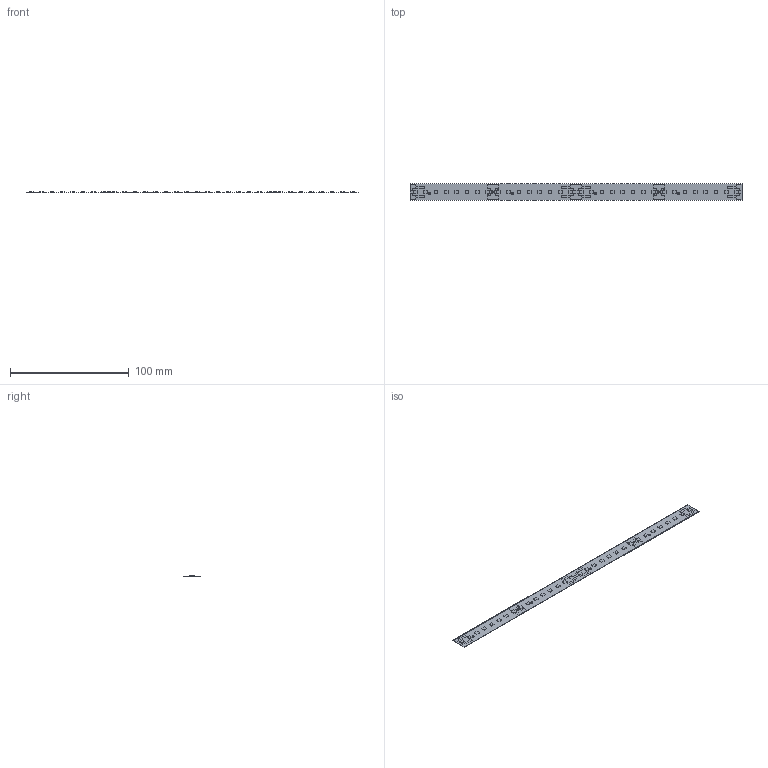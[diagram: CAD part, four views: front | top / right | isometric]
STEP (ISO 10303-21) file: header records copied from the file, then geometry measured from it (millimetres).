
FILE_DESCRIPTION((''),'2;1');
FILE_NAME('16208853_LLE-FLEX-CC-0T-ADV2','2020-05-19T13:21:49',('bernhard.fink'),(''),'CREO PARAMETRIC BY PTC INC, 2019164','CREO PARAMETRIC BY PTC INC, 2019164','');
FILE_SCHEMA(('CONFIG_CONTROL_DESIGN'));
Length unit declared in the file: millimetre
Products named in the file (1): 16208853_LLE-FLEX-CC-0T-ADV2
Bounding box: 280 x 14 x 0.8 mm (x, y, z)
Volume: 1094.1 mm3; surface area: 8209.4 mm2
Topology: 1 solids, 1 shells, 732 faces, 1816 edges, 1052 vertices
Faces by surface type: plane 404, cylinder 216, sphere 112
Entity records: 20738 total; most frequent: DIRECTION 3712, CARTESIAN_POINT 3508, ORIENTED_EDGE 3448, EDGE_CURVE 1724, AXIS2_PLACEMENT_3D 1256, VECTOR 1200, LINE 1200, VERTEX_POINT 1052
